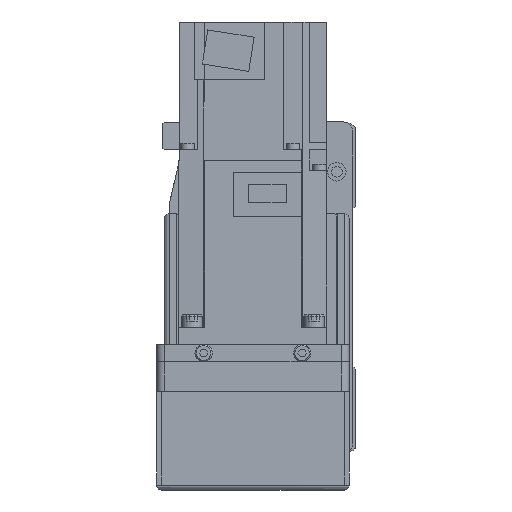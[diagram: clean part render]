
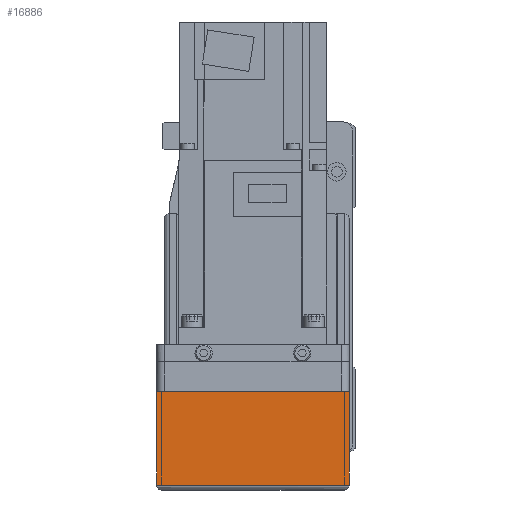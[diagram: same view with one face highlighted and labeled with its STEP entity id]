
A CAD part, left-side view. The second image highlights one B-rep face of the part: STEP entity #16886.
In plain terms, the highlighted planar face has unit normal (-1, 0, 0).
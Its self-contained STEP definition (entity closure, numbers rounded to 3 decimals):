
#2558=ORIENTED_EDGE('',*,*,#6801,.F.);
#2559=ORIENTED_EDGE('',*,*,#6802,.F.);
#2560=ORIENTED_EDGE('',*,*,#6803,.T.);
#2561=ORIENTED_EDGE('',*,*,#6804,.F.);
#6801=EDGE_CURVE('',#9021,#9012,#10762,.T.);
#6802=EDGE_CURVE('',#9038,#9021,#10763,.T.);
#6803=EDGE_CURVE('',#9038,#9039,#10764,.T.);
#6804=EDGE_CURVE('',#9012,#9039,#10765,.T.);
#9012=VERTEX_POINT('',#25968);
#9021=VERTEX_POINT('',#25986);
#9038=VERTEX_POINT('',#26034);
#9039=VERTEX_POINT('',#26036);
#10762=LINE('',#26032,#12335);
#10763=LINE('',#26033,#12336);
#10764=LINE('',#26035,#12337);
#10765=LINE('',#26037,#12338);
#12335=VECTOR('',#20848,1000.);
#12336=VECTOR('',#20849,1000.);
#12337=VECTOR('',#20850,1000.);
#12338=VECTOR('',#20851,1000.);
#13740=EDGE_LOOP('',(#2558,#2559,#2560,#2561));
#15035=FACE_BOUND('',#13740,.T.);
#16171=PLANE('',#18104);
#16886=ADVANCED_FACE('',(#15035),#16171,.F.);
#18104=AXIS2_PLACEMENT_3D('',#26031,#20846,#20847);
#20846=DIRECTION('',(1.,0.,0.));
#20847=DIRECTION('',(0.,0.,-1.));
#20848=DIRECTION('',(0.,-1.,0.));
#20849=DIRECTION('',(0.,0.,1.));
#20850=DIRECTION('',(0.,-1.,0.));
#20851=DIRECTION('',(0.,0.,-1.));
#25968=CARTESIAN_POINT('',(-158.,-39.,-12.1));
#25986=CARTESIAN_POINT('',(-158.,39.,-12.1));
#26031=CARTESIAN_POINT('',(-158.,36.,7.));
#26032=CARTESIAN_POINT('',(-158.,50.,-12.1));
#26033=CARTESIAN_POINT('',(-158.,39.,-50.));
#26034=CARTESIAN_POINT('',(-158.,39.,-50.));
#26035=CARTESIAN_POINT('',(-158.,40.,-50.));
#26036=CARTESIAN_POINT('',(-158.,-39.,-50.));
#26037=CARTESIAN_POINT('',(-158.,-39.,-12.1));
